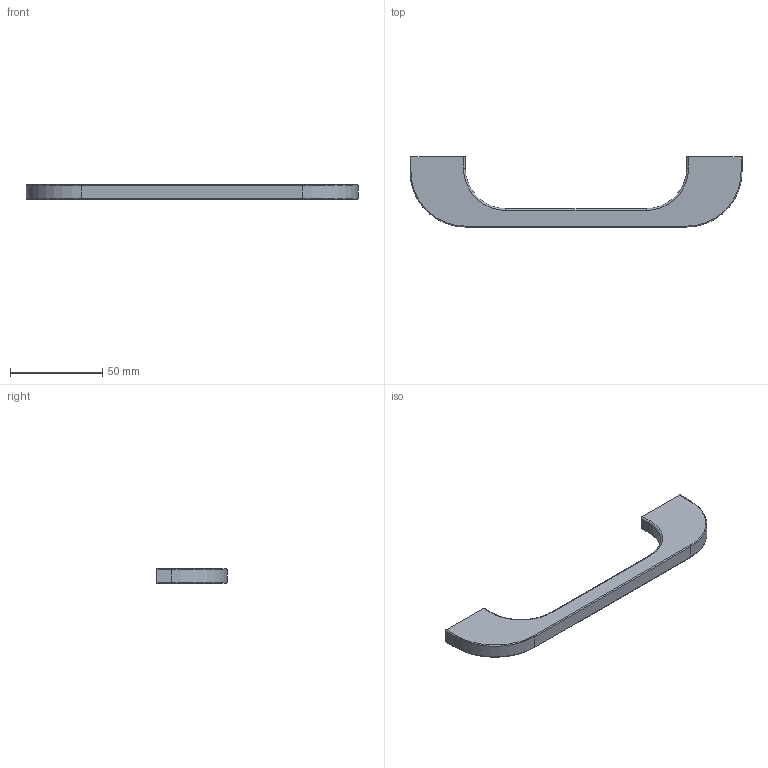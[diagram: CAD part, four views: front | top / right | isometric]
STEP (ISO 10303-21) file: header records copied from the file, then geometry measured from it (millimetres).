
FILE_DESCRIPTION( ( '' ), '1' );
FILE_NAME( 'C:/Documents and Settings/Nikhil/Desktop/Nik/Done/9131416.stp', '2013-10-24T05:41:53', ( '' ), ( '' ), ' ', ' ', ' ' );
FILE_SCHEMA( ( 'automotive_design' ) );
Length unit declared in the file: millimetre
Products named in the file (1): 1
Bounding box: 180 x 38 x 8 mm (x, y, z)
Volume: 26088.4 mm3; surface area: 10232.4 mm2
Topology: 1 solids, 1 shells, 40 faces, 92 edges, 56 vertices
Faces by surface type: cylinder 20, plane 12, torus 8
Entity records: 2220 total; most frequent: DIRECTION 222, STYLED_ITEM 189, PRESENTATION_STYLE_ASSIGNMENT 189, CARTESIAN_POINT 189, COLOUR_RGB 189, ORIENTED_EDGE 184, EDGE_CURVE 92, CURVE_STYLE 92
